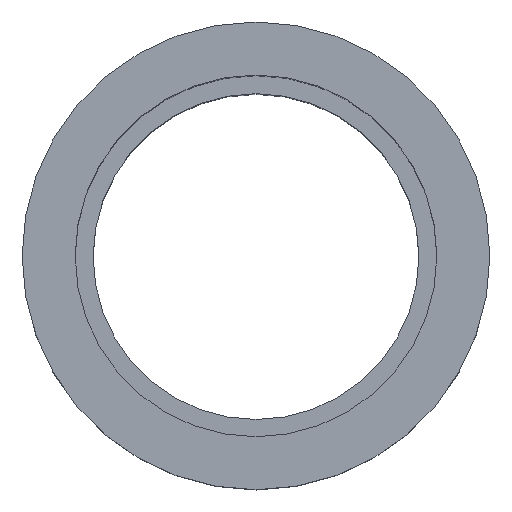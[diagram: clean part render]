
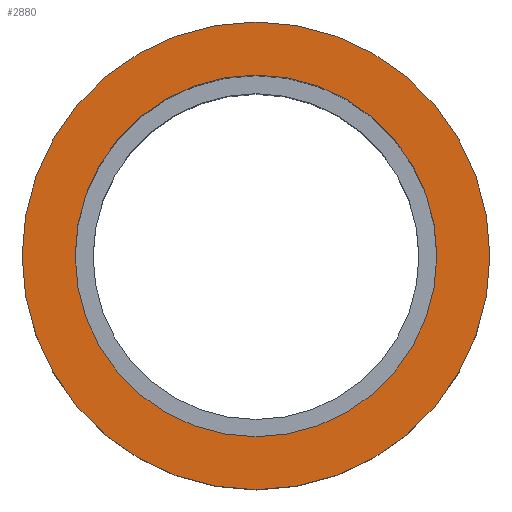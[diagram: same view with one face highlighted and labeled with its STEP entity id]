
A CAD part, top view. The second image highlights one B-rep face of the part: STEP entity #2880.
In plain terms, the highlighted planar face has unit normal (0, 0, 1) as drawn and (1, 0, 0) by its records, which use the part's own axes.
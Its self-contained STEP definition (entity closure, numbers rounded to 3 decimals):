
#2400=CARTESIAN_POINT('',(164.812,74.217,0.));
#2410=VERTEX_POINT('',#2400);
#2440=CARTESIAN_POINT('',(164.812,52.567,0.));
#2450=DIRECTION('',(-1.,-0.,0.));
#2460=DIRECTION('',(0.,-1.,0.));
#2470=AXIS2_PLACEMENT_3D('',#2440,#2450,#2460);
#2480=CIRCLE('',#2470,21.65);
#2490=CARTESIAN_POINT('',(164.812,30.917,0.));
#2500=VERTEX_POINT('',#2490);
#2510=EDGE_CURVE('',#2410,#2500,#2480,.T.);
#2630=CARTESIAN_POINT('',(164.812,25.992,0.));
#2640=DIRECTION('',(-1.,0.,0.));
#2650=DIRECTION('',(0.,1.,0.));
#2660=AXIS2_PLACEMENT_3D('',#2630,#2640,#2650);
#2670=PLANE('',#2660);
#2680=EDGE_CURVE('',#2500,#2410,#2480,.T.);
#2690=ORIENTED_EDGE('',*,*,#2680,.T.);
#2700=ORIENTED_EDGE('',*,*,#2510,.T.);
#2710=EDGE_LOOP('',(#2700,#2690));
#2720=FACE_BOUND('',#2710,.T.);
#2730=CARTESIAN_POINT('',(164.812,52.567,0.));
#2740=DIRECTION('',(-1.,-0.,0.));
#2750=DIRECTION('',(0.,1.,0.));
#2760=AXIS2_PLACEMENT_3D('',#2730,#2740,#2750);
#2770=CIRCLE('',#2760,28.);
#2780=CARTESIAN_POINT('',(164.812,80.567,0.));
#2790=VERTEX_POINT('',#2780);
#2800=CARTESIAN_POINT('',(164.812,24.567,0.));
#2810=VERTEX_POINT('',#2800);
#2820=EDGE_CURVE('',#2790,#2810,#2770,.T.);
#2830=ORIENTED_EDGE('',*,*,#2820,.F.);
#2840=EDGE_CURVE('',#2810,#2790,#2770,.T.);
#2850=ORIENTED_EDGE('',*,*,#2840,.F.);
#2860=EDGE_LOOP('',(#2850,#2830));
#2870=FACE_OUTER_BOUND('',#2860,.T.);
#2880=ADVANCED_FACE('',(#2720,#2870),#2670,.F.);
